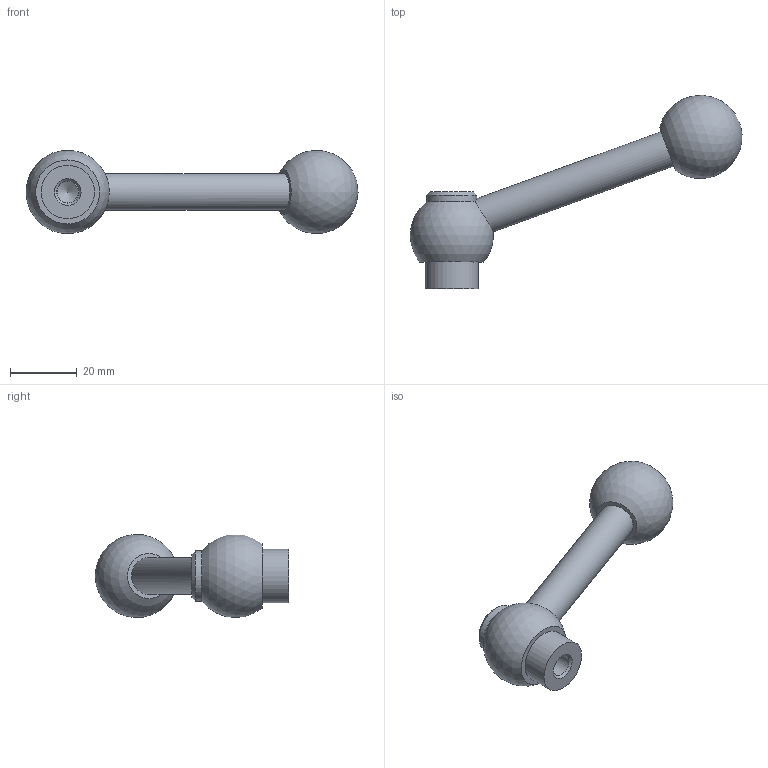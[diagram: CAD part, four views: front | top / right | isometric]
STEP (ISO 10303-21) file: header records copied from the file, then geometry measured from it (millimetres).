
FILE_DESCRIPTION( ( 'STEP AP203' ), '1' );
FILE_NAME( 'C:/Temp/Ganter_Step_05_03_2020/data/2_1/gn_6337_3/gn_6337_3_mb/gn_6337_3_mb_n/Adjustable clamping lever GN 6337.3-25-M8-N.stp', '2020-03-05T11:41:11', ( 'License CC BY-ND 4.0' ), ( 'CADENAS' ), ' ', 'PARTsolutions', ' ' );
FILE_SCHEMA( ( 'CONFIG_CONTROL_DESIGN' ) );
Length unit declared in the file: millimetre
Products named in the file (1): _Adjustable clamping lever GN 6337.3-25-M8-N
Bounding box: 99.48 x 57.98 x 24.82 mm (x, y, z)
Volume: 22313.1 mm3; surface area: 6511.9 mm2
Topology: 1 solids, 1 shells, 15 faces, 30 edges, 19 vertices
Faces by surface type: cylinder 5, plane 5, cone 3, sphere 2
Full cylindrical faces by diameter (mm): 6.4 x1, 6.647 x1, 11 x1, 15 x1, 16 x1
Entity records: 418 total; most frequent: CARTESIAN_POINT 119, DIRECTION 58, ORIENTED_EDGE 30, AXIS2_PLACEMENT_3D 29, EDGE_LOOP 27, FACE_OUTER_BOUND 21, VERTEX_POINT 16, ADVANCED_FACE 15
